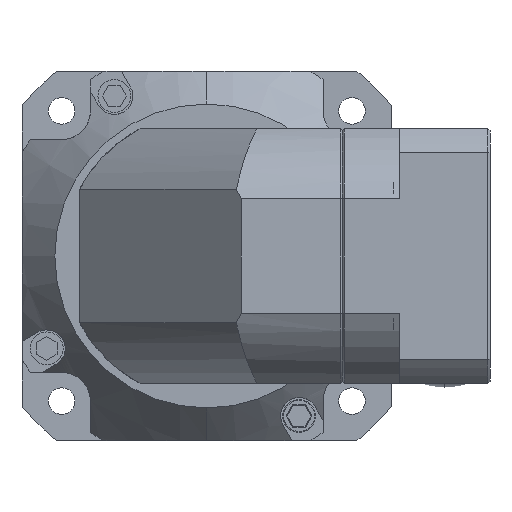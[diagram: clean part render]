
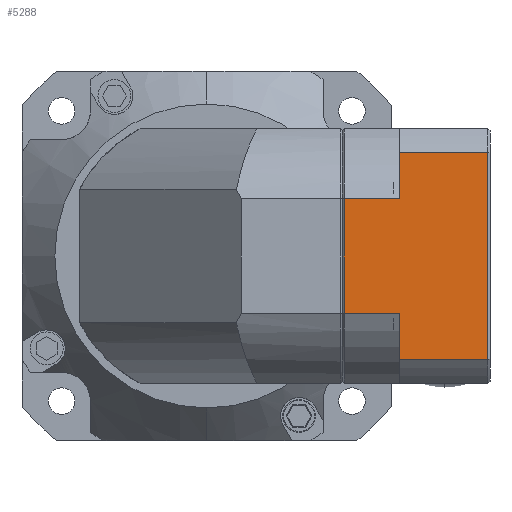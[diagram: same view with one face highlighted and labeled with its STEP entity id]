
A CAD part, front view. The second image highlights one B-rep face of the part: STEP entity #5288.
In plain terms, the highlighted planar face has unit normal (0, -1, 0).
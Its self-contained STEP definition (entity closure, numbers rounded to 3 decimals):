
#169 = CARTESIAN_POINT ( 'NONE',  ( 45.522, -163.715, 77.222 ) ) ;
#516 = VERTEX_POINT ( 'NONE', #11864 ) ;
#676 = VECTOR ( 'NONE', #8488, 1000. ) ;
#862 = LINE ( 'NONE', #19988, #5344 ) ;
#1051 = LINE ( 'NONE', #14094, #19507 ) ;
#1834 = VERTEX_POINT ( 'NONE', #13143 ) ;
#1929 = LINE ( 'NONE', #6731, #18147 ) ;
#2567 = ORIENTED_EDGE ( 'NONE', *, *, #20975, .F. ) ;
#3148 = CARTESIAN_POINT ( 'NONE',  ( 24.022, -163.715, 88.536 ) ) ;
#3618 = ORIENTED_EDGE ( 'NONE', *, *, #4881, .T. ) ;
#4403 = CARTESIAN_POINT ( 'NONE',  ( 10.522, -163.715, 116.464 ) ) ;
#4683 = VERTEX_POINT ( 'NONE', #7654 ) ;
#4881 = EDGE_CURVE ( 'NONE', #13837, #1834, #9561, .T. ) ;
#5288 = ADVANCED_FACE ( 'NONE', ( #10172 ), #7181, .F. ) ;
#5344 = VECTOR ( 'NONE', #10250, 1000. ) ;
#6356 = VERTEX_POINT ( 'NONE', #169 ) ;
#6388 = EDGE_CURVE ( 'NONE', #6356, #9082, #19478, .T. ) ;
#6437 = DIRECTION ( 'NONE',  ( 0., 0., -1. ) ) ;
#6534 = EDGE_LOOP ( 'NONE', ( #2567, #18114, #9700, #9421, #8018, #11078, #7507, #3618 ) ) ;
#6731 = CARTESIAN_POINT ( 'NONE',  ( 46.022, -163.715, 127.778 ) ) ;
#7177 = CARTESIAN_POINT ( 'NONE',  ( 24.022, -163.715, 116.464 ) ) ;
#7181 = PLANE ( 'NONE',  #14376 ) ;
#7507 = ORIENTED_EDGE ( 'NONE', *, *, #8521, .F. ) ;
#7532 = VECTOR ( 'NONE', #14478, 1000. ) ;
#7654 = CARTESIAN_POINT ( 'NONE',  ( 10.522, -163.715, 88.536 ) ) ;
#7947 = DIRECTION ( 'NONE',  ( -1., 0., 0. ) ) ;
#8018 = ORIENTED_EDGE ( 'NONE', *, *, #11141, .T. ) ;
#8261 = VECTOR ( 'NONE', #6437, 1000. ) ;
#8385 = CARTESIAN_POINT ( 'NONE',  ( 24.022, -163.715, 127.778 ) ) ;
#8444 = CARTESIAN_POINT ( 'NONE',  ( 45.522, -163.715, 127.778 ) ) ;
#8488 = DIRECTION ( 'NONE',  ( -1., 0., 0. ) ) ;
#8521 = EDGE_CURVE ( 'NONE', #13837, #4683, #14486, .T. ) ;
#8826 = EDGE_CURVE ( 'NONE', #19051, #4683, #12514, .T. ) ;
#9082 = VERTEX_POINT ( 'NONE', #8444 ) ;
#9421 = ORIENTED_EDGE ( 'NONE', *, *, #13220, .T. ) ;
#9561 = LINE ( 'NONE', #8385, #18844 ) ;
#9651 = CARTESIAN_POINT ( 'NONE',  ( 45.522, -163.715, 127.778 ) ) ;
#9700 = ORIENTED_EDGE ( 'NONE', *, *, #12993, .T. ) ;
#10172 = FACE_OUTER_BOUND ( 'NONE', #6534, .T. ) ;
#10250 = DIRECTION ( 'NONE',  ( -1., 0., 0. ) ) ;
#11078 = ORIENTED_EDGE ( 'NONE', *, *, #8826, .T. ) ;
#11141 = EDGE_CURVE ( 'NONE', #20081, #19051, #14931, .T. ) ;
#11864 = CARTESIAN_POINT ( 'NONE',  ( 24.022, -163.715, 127.778 ) ) ;
#12514 = LINE ( 'NONE', #4403, #8261 ) ;
#12866 = CARTESIAN_POINT ( 'NONE',  ( 24.022, -163.715, 88.536 ) ) ;
#12993 = EDGE_CURVE ( 'NONE', #9082, #516, #1929, .T. ) ;
#13103 = DIRECTION ( 'NONE',  ( 0., 0., -1. ) ) ;
#13143 = CARTESIAN_POINT ( 'NONE',  ( 24.022, -163.715, 77.222 ) ) ;
#13220 = EDGE_CURVE ( 'NONE', #516, #20081, #1051, .T. ) ;
#13223 = CARTESIAN_POINT ( 'NONE',  ( 10.522, -163.715, 116.464 ) ) ;
#13316 = CARTESIAN_POINT ( 'NONE',  ( 24.022, -163.715, 116.464 ) ) ;
#13705 = CARTESIAN_POINT ( 'NONE',  ( 24.022, -163.715, 116.464 ) ) ;
#13837 = VERTEX_POINT ( 'NONE', #3148 ) ;
#14094 = CARTESIAN_POINT ( 'NONE',  ( 24.022, -163.715, 127.778 ) ) ;
#14376 = AXIS2_PLACEMENT_3D ( 'NONE', #13705, #16704, #14901 ) ;
#14478 = DIRECTION ( 'NONE',  ( 0., 0., 1. ) ) ;
#14486 = LINE ( 'NONE', #12866, #15069 ) ;
#14901 = DIRECTION ( 'NONE',  ( 1., 0., 0. ) ) ;
#14931 = LINE ( 'NONE', #13316, #676 ) ;
#15069 = VECTOR ( 'NONE', #7947, 1000. ) ;
#16356 = DIRECTION ( 'NONE',  ( -1., 0., 0. ) ) ;
#16704 = DIRECTION ( 'NONE',  ( 0., 1., 0. ) ) ;
#17509 = DIRECTION ( 'NONE',  ( 0., 0., -1. ) ) ;
#18114 = ORIENTED_EDGE ( 'NONE', *, *, #6388, .T. ) ;
#18147 = VECTOR ( 'NONE', #16356, 1000. ) ;
#18844 = VECTOR ( 'NONE', #13103, 1000. ) ;
#19051 = VERTEX_POINT ( 'NONE', #13223 ) ;
#19478 = LINE ( 'NONE', #9651, #7532 ) ;
#19507 = VECTOR ( 'NONE', #17509, 1000. ) ;
#19988 = CARTESIAN_POINT ( 'NONE',  ( 46.022, -163.715, 77.222 ) ) ;
#20081 = VERTEX_POINT ( 'NONE', #7177 ) ;
#20975 = EDGE_CURVE ( 'NONE', #6356, #1834, #862, .T. ) ;
